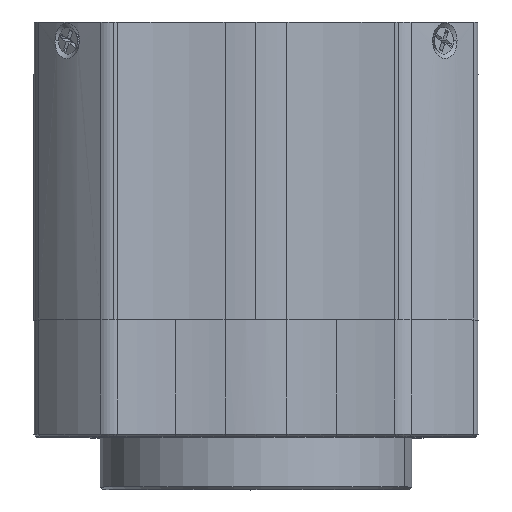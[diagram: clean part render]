
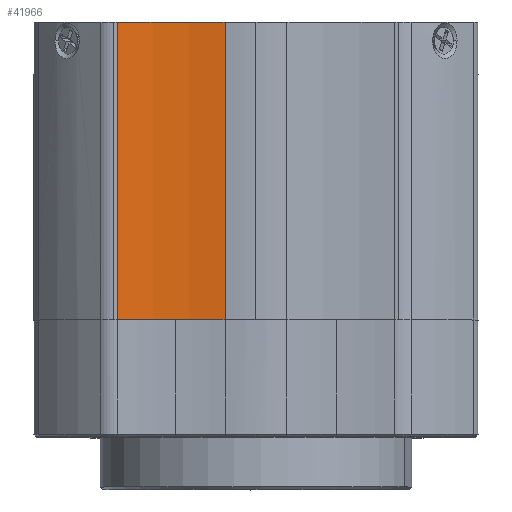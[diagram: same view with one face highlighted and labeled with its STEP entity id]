
A CAD part, top view. The second image highlights one B-rep face of the part: STEP entity #41966.
In plain terms, the highlighted cylindrical face has radius 40 mm (diameter 80 mm), a partial arc.
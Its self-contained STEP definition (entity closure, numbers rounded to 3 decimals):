
#5026 = CARTESIAN_POINT ( 'NONE',  ( -15.561, -1.2, 24.855 ) ) ;
#6299 = AXIS2_PLACEMENT_3D ( 'NONE', #38439, #61523, #27480 ) ;
#7339 = CARTESIAN_POINT ( 'NONE',  ( -9.035, 0.3, 64.319 ) ) ;
#10043 = LINE ( 'NONE', #27074, #19443 ) ;
#10158 = CARTESIAN_POINT ( 'NONE',  ( -15.561, 0.3, 24.855 ) ) ;
#10542 = ORIENTED_EDGE ( 'NONE', *, *, #40900, .T. ) ;
#17164 = CIRCLE ( 'NONE', #6299, 40. ) ;
#18957 = ORIENTED_EDGE ( 'NONE', *, *, #70118, .F. ) ;
#19219 = ORIENTED_EDGE ( 'NONE', *, *, #71788, .F. ) ;
#19443 = VECTOR ( 'NONE', #39515, 1000. ) ;
#23600 = DIRECTION ( 'NONE',  ( 0., 0., 1. ) ) ;
#24719 = DIRECTION ( 'NONE',  ( 0., -1., 0. ) ) ;
#25871 = CARTESIAN_POINT ( 'NONE',  ( -3.471, 0.3, 24.707 ) ) ;
#27074 = CARTESIAN_POINT ( 'NONE',  ( -3.471, -1.2, 24.707 ) ) ;
#27480 = DIRECTION ( 'NONE',  ( 0., 0., 1. ) ) ;
#28607 = DIRECTION ( 'NONE',  ( 0., 1., 0. ) ) ;
#35745 = AXIS2_PLACEMENT_3D ( 'NONE', #7339, #24719, #23600 ) ;
#35757 = DIRECTION ( 'NONE',  ( 0., 0., 1. ) ) ;
#37886 = EDGE_CURVE ( 'NONE', #61640, #56004, #10043, .T. ) ;
#38439 = CARTESIAN_POINT ( 'NONE',  ( -9.035, 33.7, 64.319 ) ) ;
#39515 = DIRECTION ( 'NONE',  ( 0., 1., 0. ) ) ;
#40900 = EDGE_CURVE ( 'NONE', #73826, #61640, #58679, .T. ) ;
#41966 = ADVANCED_FACE ( 'NONE', ( #59196 ), #52417, .F. ) ;
#43615 = DIRECTION ( 'NONE',  ( 0., 1., 0. ) ) ;
#45068 = ORIENTED_EDGE ( 'NONE', *, *, #37886, .T. ) ;
#45112 = LINE ( 'NONE', #5026, #47576 ) ;
#47576 = VECTOR ( 'NONE', #43615, 1000. ) ;
#52417 = CYLINDRICAL_SURFACE ( 'NONE', #64916, 40. ) ;
#56004 = VERTEX_POINT ( 'NONE', #74017 ) ;
#57710 = CARTESIAN_POINT ( 'NONE',  ( -9.035, -1.2, 64.319 ) ) ;
#58679 = CIRCLE ( 'NONE', #35745, 40. ) ;
#59111 = VERTEX_POINT ( 'NONE', #63692 ) ;
#59196 = FACE_OUTER_BOUND ( 'NONE', #64121, .T. ) ;
#61523 = DIRECTION ( 'NONE',  ( 0., -1., 0. ) ) ;
#61640 = VERTEX_POINT ( 'NONE', #25871 ) ;
#63692 = CARTESIAN_POINT ( 'NONE',  ( -15.561, 33.7, 24.855 ) ) ;
#64121 = EDGE_LOOP ( 'NONE', ( #45068, #18957, #19219, #10542 ) ) ;
#64916 = AXIS2_PLACEMENT_3D ( 'NONE', #57710, #28607, #35757 ) ;
#70118 = EDGE_CURVE ( 'NONE', #59111, #56004, #17164, .T. ) ;
#71788 = EDGE_CURVE ( 'NONE', #73826, #59111, #45112, .T. ) ;
#73826 = VERTEX_POINT ( 'NONE', #10158 ) ;
#74017 = CARTESIAN_POINT ( 'NONE',  ( -3.471, 33.7, 24.707 ) ) ;
